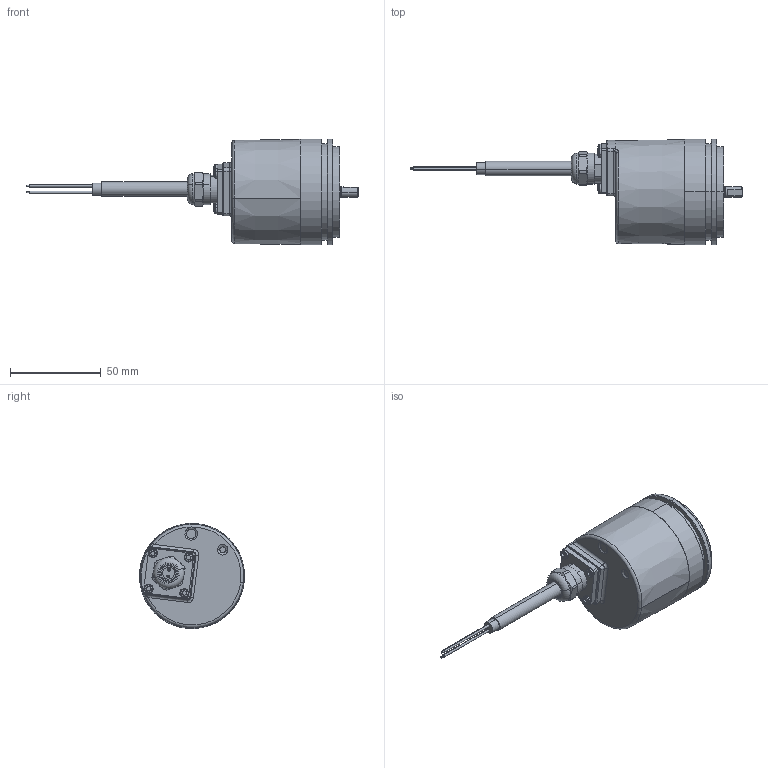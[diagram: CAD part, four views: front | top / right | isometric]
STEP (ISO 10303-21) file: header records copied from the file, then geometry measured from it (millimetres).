
FILE_DESCRIPTION (( 'STEP AP214' ), '1' );
FILE_NAME ('8.F5863.21X1.XXXX.STEP', '2014-05-22T09:05:19', ( 'HeirlerN' ), ( 'Microsoft' ), 'SwSTEP 2.0', 'SolidWorks 2013', '' );
FILE_SCHEMA (( 'AUTOMOTIVE_DESIGN' ));
Length unit declared in the file: millimetre
Products named in the file (1): 8.F5863.21X1.XXXX
Bounding box: 183 x 58 x 58 mm (x, y, z)
Volume: 82941.2 mm3; surface area: 48973.4 mm2
Topology: 12 solids, 12 shells, 837 faces, 2012 edges, 1206 vertices
Faces by surface type: cylinder 255, plane 209, cone 194, torus 111, bspline 40, sphere 28
Entity records: 35124 total; most frequent: CARTESIAN_POINT 6612, DIRECTION 4272, ORIENTED_EDGE 3848, EDGE_CURVE 1924, AXIS2_PLACEMENT_3D 1805, VERTEX_POINT 1176, CIRCLE 1007, EDGE_LOOP 942
